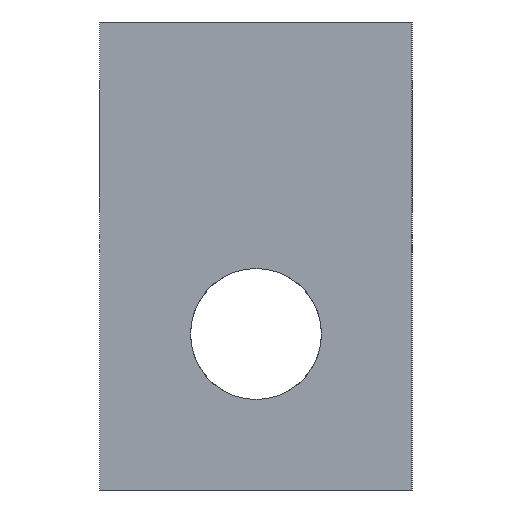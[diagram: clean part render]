
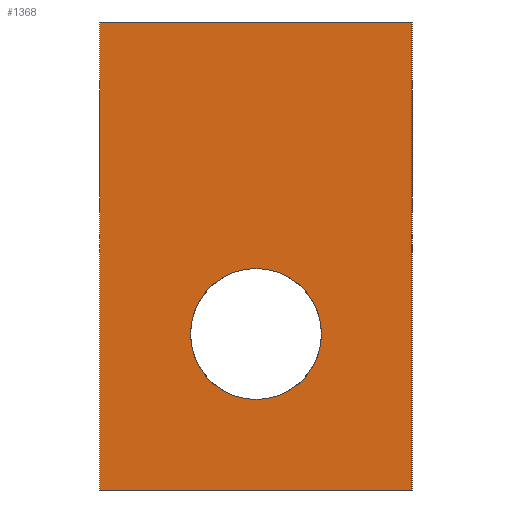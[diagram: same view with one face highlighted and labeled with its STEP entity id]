
A CAD part, left-side view. The second image highlights one B-rep face of the part: STEP entity #1368.
In plain terms, the highlighted planar face has unit normal (-1, 0, 0).
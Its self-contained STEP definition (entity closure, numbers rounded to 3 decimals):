
#85 = DIRECTION ( 'NONE',  ( 0., 0., 1. ) ) ;
#113 = EDGE_CURVE ( 'NONE', #1298, #1608, #1446, .T. ) ;
#120 = DIRECTION ( 'NONE',  ( -1., 0., 0. ) ) ;
#129 = ORIENTED_EDGE ( 'NONE', *, *, #561, .F. ) ;
#138 = FACE_OUTER_BOUND ( 'NONE', #1711, .T. ) ;
#167 = CARTESIAN_POINT ( 'NONE',  ( -29., 0., -0.4 ) ) ;
#256 = CARTESIAN_POINT ( 'NONE',  ( -29., 5., -7.5 ) ) ;
#283 = CARTESIAN_POINT ( 'NONE',  ( -29., 0., -4.6 ) ) ;
#289 = CARTESIAN_POINT ( 'NONE',  ( -29., -5., -7.5 ) ) ;
#294 = VERTEX_POINT ( 'NONE', #1477 ) ;
#308 = CIRCLE ( 'NONE', #424, 2.1 ) ;
#331 = ORIENTED_EDGE ( 'NONE', *, *, #113, .F. ) ;
#345 = VERTEX_POINT ( 'NONE', #167 ) ;
#373 = AXIS2_PLACEMENT_3D ( 'NONE', #1292, #501, #1432 ) ;
#396 = LINE ( 'NONE', #1287, #1106 ) ;
#424 = AXIS2_PLACEMENT_3D ( 'NONE', #900, #120, #1035 ) ;
#470 = VECTOR ( 'NONE', #85, 1000. ) ;
#493 = DIRECTION ( 'NONE',  ( 0., -1., 0. ) ) ;
#501 = DIRECTION ( 'NONE',  ( -1., 0., 0. ) ) ;
#525 = DIRECTION ( 'NONE',  ( 1., 0., 0. ) ) ;
#541 = LINE ( 'NONE', #289, #889 ) ;
#561 = EDGE_CURVE ( 'NONE', #1655, #345, #308, .T. ) ;
#570 = LINE ( 'NONE', #256, #1580 ) ;
#573 = CARTESIAN_POINT ( 'NONE',  ( -29., 5., -7.5 ) ) ;
#579 = EDGE_CURVE ( 'NONE', #1298, #880, #570, .T. ) ;
#658 = DIRECTION ( 'NONE',  ( 0., 0., -1. ) ) ;
#779 = FACE_BOUND ( 'NONE', #1137, .T. ) ;
#829 = ORIENTED_EDGE ( 'NONE', *, *, #579, .T. ) ;
#877 = ORIENTED_EDGE ( 'NONE', *, *, #1206, .T. ) ;
#880 = VERTEX_POINT ( 'NONE', #1672 ) ;
#889 = VECTOR ( 'NONE', #1081, 1000. ) ;
#900 = CARTESIAN_POINT ( 'NONE',  ( -29., 0., -2.5 ) ) ;
#965 = EDGE_CURVE ( 'NONE', #345, #1655, #1556, .T. ) ;
#1035 = DIRECTION ( 'NONE',  ( 0., 0., 1. ) ) ;
#1081 = DIRECTION ( 'NONE',  ( 0., 0., 1. ) ) ;
#1106 = VECTOR ( 'NONE', #493, 1000. ) ;
#1137 = EDGE_LOOP ( 'NONE', ( #1242, #129 ) ) ;
#1206 = EDGE_CURVE ( 'NONE', #880, #294, #541, .T. ) ;
#1242 = ORIENTED_EDGE ( 'NONE', *, *, #965, .F. ) ;
#1287 = CARTESIAN_POINT ( 'NONE',  ( -29., 5., 7.5 ) ) ;
#1292 = CARTESIAN_POINT ( 'NONE',  ( -29., 0., -2.5 ) ) ;
#1295 = PLANE ( 'NONE',  #1309 ) ;
#1298 = VERTEX_POINT ( 'NONE', #573 ) ;
#1309 = AXIS2_PLACEMENT_3D ( 'NONE', #1562, #525, #658 ) ;
#1368 = ADVANCED_FACE ( 'NONE', ( #779, #138 ), #1295, .F. ) ;
#1432 = DIRECTION ( 'NONE',  ( 0., 0., 1. ) ) ;
#1446 = LINE ( 'NONE', #1624, #470 ) ;
#1477 = CARTESIAN_POINT ( 'NONE',  ( -29., -5., 7.5 ) ) ;
#1553 = EDGE_CURVE ( 'NONE', #1608, #294, #396, .T. ) ;
#1556 = CIRCLE ( 'NONE', #373, 2.1 ) ;
#1562 = CARTESIAN_POINT ( 'NONE',  ( -29., 5., -7.5 ) ) ;
#1580 = VECTOR ( 'NONE', #1697, 1000. ) ;
#1588 = CARTESIAN_POINT ( 'NONE',  ( -29., 5., 7.5 ) ) ;
#1606 = ORIENTED_EDGE ( 'NONE', *, *, #1553, .F. ) ;
#1608 = VERTEX_POINT ( 'NONE', #1588 ) ;
#1624 = CARTESIAN_POINT ( 'NONE',  ( -29., 5., -7.5 ) ) ;
#1655 = VERTEX_POINT ( 'NONE', #283 ) ;
#1672 = CARTESIAN_POINT ( 'NONE',  ( -29., -5., -7.5 ) ) ;
#1697 = DIRECTION ( 'NONE',  ( 0., -1., 0. ) ) ;
#1711 = EDGE_LOOP ( 'NONE', ( #877, #1606, #331, #829 ) ) ;
